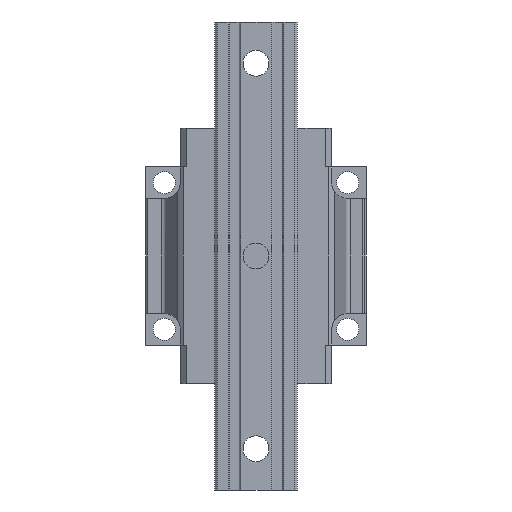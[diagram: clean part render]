
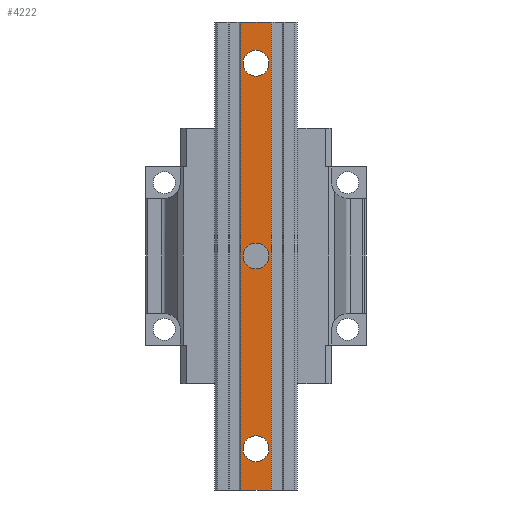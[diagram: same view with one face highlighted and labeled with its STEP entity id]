
A CAD part, front view. The second image highlights one B-rep face of the part: STEP entity #4222.
In plain terms, the highlighted planar face has unit normal (0, -1, 0).
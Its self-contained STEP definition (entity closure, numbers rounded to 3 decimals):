
#18 = CIRCLE ( 'NONE', #7217, 7. ) ;
#36 = AXIS2_PLACEMENT_3D ( 'NONE', #2241, #5982, #6477 ) ;
#324 = VECTOR ( 'NONE', #1214, 1000. ) ;
#331 = EDGE_LOOP ( 'NONE', ( #2322, #1218 ) ) ;
#333 = CARTESIAN_POINT ( 'NONE',  ( 0., -38., -112. ) ) ;
#511 = CARTESIAN_POINT ( 'NONE',  ( -8.25, -38., 127.5 ) ) ;
#769 = VERTEX_POINT ( 'NONE', #4021 ) ;
#1025 = ORIENTED_EDGE ( 'NONE', *, *, #5400, .T. ) ;
#1038 = VECTOR ( 'NONE', #3548, 1000. ) ;
#1076 = FACE_OUTER_BOUND ( 'NONE', #5285, .T. ) ;
#1120 = VECTOR ( 'NONE', #6698, 1000. ) ;
#1140 = ORIENTED_EDGE ( 'NONE', *, *, #2607, .T. ) ;
#1214 = DIRECTION ( 'NONE',  ( 0., 0., -1. ) ) ;
#1218 = ORIENTED_EDGE ( 'NONE', *, *, #4757, .T. ) ;
#1228 = CARTESIAN_POINT ( 'NONE',  ( 0., -38., 0. ) ) ;
#1278 = AXIS2_PLACEMENT_3D ( 'NONE', #2143, #5689, #5309 ) ;
#1282 = VERTEX_POINT ( 'NONE', #5525 ) ;
#1414 = ORIENTED_EDGE ( 'NONE', *, *, #4602, .T. ) ;
#1448 = AXIS2_PLACEMENT_3D ( 'NONE', #2421, #4863, #3668 ) ;
#1696 = LINE ( 'NONE', #3625, #1120 ) ;
#1778 = VERTEX_POINT ( 'NONE', #5752 ) ;
#1825 = DIRECTION ( 'NONE',  ( 0., 0., 1. ) ) ;
#1981 = AXIS2_PLACEMENT_3D ( 'NONE', #6127, #5504, #6079 ) ;
#2143 = CARTESIAN_POINT ( 'NONE',  ( 0., -38., 105. ) ) ;
#2170 = CARTESIAN_POINT ( 'NONE',  ( 8.25, -38., 127.5 ) ) ;
#2231 = FACE_BOUND ( 'NONE', #6728, .T. ) ;
#2241 = CARTESIAN_POINT ( 'NONE',  ( 0., -38., -105. ) ) ;
#2322 = ORIENTED_EDGE ( 'NONE', *, *, #5442, .T. ) ;
#2421 = CARTESIAN_POINT ( 'NONE',  ( -8.25, -38., -127.5 ) ) ;
#2437 = CARTESIAN_POINT ( 'NONE',  ( 0., -38., 0. ) ) ;
#2607 = EDGE_CURVE ( 'NONE', #5970, #7413, #2933, .T. ) ;
#2645 = EDGE_CURVE ( 'NONE', #769, #3236, #6579, .T. ) ;
#2933 = CIRCLE ( 'NONE', #1278, 7. ) ;
#3129 = ORIENTED_EDGE ( 'NONE', *, *, #7001, .T. ) ;
#3236 = VERTEX_POINT ( 'NONE', #2170 ) ;
#3269 = CARTESIAN_POINT ( 'NONE',  ( 0., -38., 7. ) ) ;
#3473 = PLANE ( 'NONE',  #1448 ) ;
#3548 = DIRECTION ( 'NONE',  ( 0., 0., 1. ) ) ;
#3625 = CARTESIAN_POINT ( 'NONE',  ( 0., -38., -127.5 ) ) ;
#3646 = DIRECTION ( 'NONE',  ( 0., 1., 0. ) ) ;
#3661 = LINE ( 'NONE', #4186, #324 ) ;
#3668 = DIRECTION ( 'NONE',  ( 0., 0., -1. ) ) ;
#3740 = LINE ( 'NONE', #3779, #5848 ) ;
#3779 = CARTESIAN_POINT ( 'NONE',  ( 0., -38., 127.5 ) ) ;
#3821 = AXIS2_PLACEMENT_3D ( 'NONE', #2437, #3646, #1825 ) ;
#3885 = CIRCLE ( 'NONE', #5029, 7. ) ;
#4018 = VERTEX_POINT ( 'NONE', #511 ) ;
#4021 = CARTESIAN_POINT ( 'NONE',  ( 8.25, -38., -127.5 ) ) ;
#4030 = EDGE_CURVE ( 'NONE', #1282, #4607, #18, .T. ) ;
#4111 = FACE_BOUND ( 'NONE', #7528, .T. ) ;
#4146 = CARTESIAN_POINT ( 'NONE',  ( 8.25, -38., -127.5 ) ) ;
#4186 = CARTESIAN_POINT ( 'NONE',  ( -8.25, -38., -127.5 ) ) ;
#4222 = ADVANCED_FACE ( 'NONE', ( #2231, #4111, #5232, #1076 ), #3473, .T. ) ;
#4533 = ORIENTED_EDGE ( 'NONE', *, *, #5263, .F. ) ;
#4592 = DIRECTION ( 'NONE',  ( 0., 1., 0. ) ) ;
#4602 = EDGE_CURVE ( 'NONE', #7413, #5970, #3885, .T. ) ;
#4607 = VERTEX_POINT ( 'NONE', #3269 ) ;
#4757 = EDGE_CURVE ( 'NONE', #5336, #1778, #6338, .T. ) ;
#4763 = ORIENTED_EDGE ( 'NONE', *, *, #2645, .T. ) ;
#4863 = DIRECTION ( 'NONE',  ( 0., -1., 0. ) ) ;
#4890 = ORIENTED_EDGE ( 'NONE', *, *, #6451, .T. ) ;
#5029 = AXIS2_PLACEMENT_3D ( 'NONE', #6442, #4592, #7607 ) ;
#5144 = DIRECTION ( 'NONE',  ( 1., 0., 0. ) ) ;
#5232 = FACE_BOUND ( 'NONE', #331, .T. ) ;
#5263 = EDGE_CURVE ( 'NONE', #4018, #3236, #3740, .T. ) ;
#5285 = EDGE_LOOP ( 'NONE', ( #4763, #4533, #1025, #4890 ) ) ;
#5309 = DIRECTION ( 'NONE',  ( 0., 0., 1. ) ) ;
#5325 = CIRCLE ( 'NONE', #1981, 7. ) ;
#5336 = VERTEX_POINT ( 'NONE', #333 ) ;
#5395 = DIRECTION ( 'NONE',  ( 0., 1., 0. ) ) ;
#5400 = EDGE_CURVE ( 'NONE', #4018, #7085, #3661, .T. ) ;
#5442 = EDGE_CURVE ( 'NONE', #1778, #5336, #5325, .T. ) ;
#5482 = CARTESIAN_POINT ( 'NONE',  ( -8.25, -38., -127.5 ) ) ;
#5504 = DIRECTION ( 'NONE',  ( 0., 1., 0. ) ) ;
#5525 = CARTESIAN_POINT ( 'NONE',  ( 0., -38., -7. ) ) ;
#5689 = DIRECTION ( 'NONE',  ( 0., 1., 0. ) ) ;
#5752 = CARTESIAN_POINT ( 'NONE',  ( 0., -38., -98. ) ) ;
#5848 = VECTOR ( 'NONE', #5144, 1000. ) ;
#5970 = VERTEX_POINT ( 'NONE', #7493 ) ;
#5982 = DIRECTION ( 'NONE',  ( 0., 1., 0. ) ) ;
#6079 = DIRECTION ( 'NONE',  ( 0., 0., 1. ) ) ;
#6127 = CARTESIAN_POINT ( 'NONE',  ( 0., -38., -105. ) ) ;
#6242 = ORIENTED_EDGE ( 'NONE', *, *, #4030, .T. ) ;
#6338 = CIRCLE ( 'NONE', #36, 7. ) ;
#6442 = CARTESIAN_POINT ( 'NONE',  ( 0., -38., 105. ) ) ;
#6451 = EDGE_CURVE ( 'NONE', #7085, #769, #1696, .T. ) ;
#6477 = DIRECTION ( 'NONE',  ( 0., 0., 1. ) ) ;
#6579 = LINE ( 'NONE', #4146, #1038 ) ;
#6698 = DIRECTION ( 'NONE',  ( 1., 0., 0. ) ) ;
#6728 = EDGE_LOOP ( 'NONE', ( #3129, #6242 ) ) ;
#7001 = EDGE_CURVE ( 'NONE', #4607, #1282, #7312, .T. ) ;
#7085 = VERTEX_POINT ( 'NONE', #5482 ) ;
#7217 = AXIS2_PLACEMENT_3D ( 'NONE', #1228, #5395, #7952 ) ;
#7312 = CIRCLE ( 'NONE', #3821, 7. ) ;
#7413 = VERTEX_POINT ( 'NONE', #7477 ) ;
#7477 = CARTESIAN_POINT ( 'NONE',  ( 0., -38., 98. ) ) ;
#7493 = CARTESIAN_POINT ( 'NONE',  ( 0., -38., 112. ) ) ;
#7528 = EDGE_LOOP ( 'NONE', ( #1140, #1414 ) ) ;
#7607 = DIRECTION ( 'NONE',  ( 0., 0., 1. ) ) ;
#7952 = DIRECTION ( 'NONE',  ( 0., 0., 1. ) ) ;
